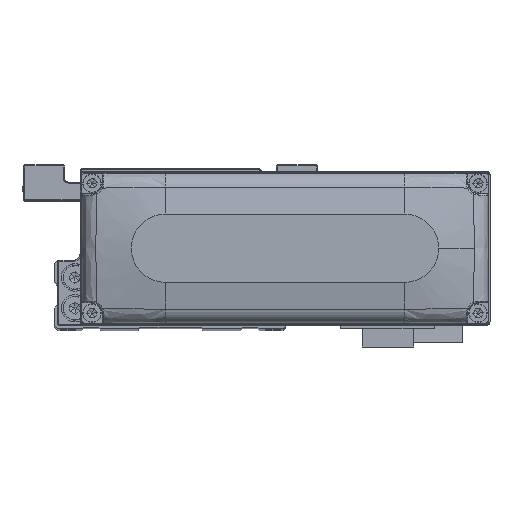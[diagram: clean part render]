
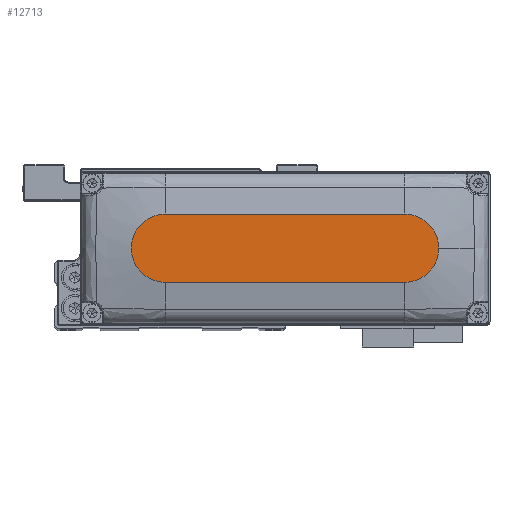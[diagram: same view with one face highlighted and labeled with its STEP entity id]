
A CAD part, top view. The second image highlights one B-rep face of the part: STEP entity #12713.
In plain terms, the highlighted planar face has unit normal (0, 0, 1).
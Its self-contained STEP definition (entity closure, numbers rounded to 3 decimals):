
#1715 = DIRECTION ( 'NONE',  ( 1., 0., 0. ) ) ;
#2168 = DIRECTION ( 'NONE',  ( 1., 0., 0. ) ) ;
#2771 = EDGE_CURVE ( 'NONE', #33817, #11611, #34825, .T. ) ;
#2887 = CARTESIAN_POINT ( 'NONE',  ( -35., 10., 28. ) ) ;
#2987 = ORIENTED_EDGE ( 'NONE', *, *, #30424, .T. ) ;
#3799 = AXIS2_PLACEMENT_3D ( 'NONE', #32739, #6324, #18088 ) ;
#3997 = CARTESIAN_POINT ( 'NONE',  ( 45., 0., 28. ) ) ;
#5388 = CARTESIAN_POINT ( 'NONE',  ( 35., -10., 28. ) ) ;
#6052 = DIRECTION ( 'NONE',  ( 1., 0., 0. ) ) ;
#6324 = DIRECTION ( 'NONE',  ( 0., 0., 1. ) ) ;
#9199 = FACE_OUTER_BOUND ( 'NONE', #35766, .T. ) ;
#9559 = ORIENTED_EDGE ( 'NONE', *, *, #2771, .T. ) ;
#10626 = CARTESIAN_POINT ( 'NONE',  ( 35., 0., 28. ) ) ;
#11611 = VERTEX_POINT ( 'NONE', #3997 ) ;
#12713 = ADVANCED_FACE ( 'NONE', ( #9199 ), #20981, .T. ) ;
#13333 = VERTEX_POINT ( 'NONE', #36120 ) ;
#13894 = EDGE_CURVE ( 'NONE', #13333, #15978, #31494, .T. ) ;
#14551 = CIRCLE ( 'NONE', #36122, 10. ) ;
#14654 = DIRECTION ( 'NONE',  ( -1., 0., 0. ) ) ;
#14866 = AXIS2_PLACEMENT_3D ( 'NONE', #16379, #28164, #1715 ) ;
#15001 = ORIENTED_EDGE ( 'NONE', *, *, #30095, .T. ) ;
#15978 = VERTEX_POINT ( 'NONE', #31484 ) ;
#16379 = CARTESIAN_POINT ( 'NONE',  ( -35., 0., 28. ) ) ;
#16833 = CARTESIAN_POINT ( 'NONE',  ( 35., 0., 28. ) ) ;
#17641 = ORIENTED_EDGE ( 'NONE', *, *, #17670, .T. ) ;
#17670 = EDGE_CURVE ( 'NONE', #21219, #13333, #29337, .T. ) ;
#18088 = DIRECTION ( 'NONE',  ( 1., 0., 0. ) ) ;
#18201 = AXIS2_PLACEMENT_3D ( 'NONE', #10626, #22411, #34158 ) ;
#20712 = LINE ( 'NONE', #32473, #25643 ) ;
#20981 = PLANE ( 'NONE',  #3799 ) ;
#21219 = VERTEX_POINT ( 'NONE', #24092 ) ;
#22411 = DIRECTION ( 'NONE',  ( 0., 0., 1. ) ) ;
#23653 = ORIENTED_EDGE ( 'NONE', *, *, #13894, .T. ) ;
#24092 = CARTESIAN_POINT ( 'NONE',  ( 35., 10., 28. ) ) ;
#25643 = VECTOR ( 'NONE', #6052, 1000. ) ;
#28164 = DIRECTION ( 'NONE',  ( 0., 0., 1. ) ) ;
#28614 = DIRECTION ( 'NONE',  ( 0., 0., 1. ) ) ;
#29337 = LINE ( 'NONE', #2887, #33086 ) ;
#30095 = EDGE_CURVE ( 'NONE', #15978, #33817, #20712, .T. ) ;
#30424 = EDGE_CURVE ( 'NONE', #11611, #21219, #14551, .T. ) ;
#31484 = CARTESIAN_POINT ( 'NONE',  ( -35., -10., 28. ) ) ;
#31494 = CIRCLE ( 'NONE', #14866, 10. ) ;
#32473 = CARTESIAN_POINT ( 'NONE',  ( -35., -10., 28. ) ) ;
#32739 = CARTESIAN_POINT ( 'NONE',  ( 0., 0., 28. ) ) ;
#33086 = VECTOR ( 'NONE', #14654, 1000. ) ;
#33817 = VERTEX_POINT ( 'NONE', #5388 ) ;
#34158 = DIRECTION ( 'NONE',  ( 1., 0., 0. ) ) ;
#34825 = CIRCLE ( 'NONE', #18201, 10. ) ;
#35766 = EDGE_LOOP ( 'NONE', ( #17641, #23653, #15001, #9559, #2987 ) ) ;
#36120 = CARTESIAN_POINT ( 'NONE',  ( -35., 10., 28. ) ) ;
#36122 = AXIS2_PLACEMENT_3D ( 'NONE', #16833, #28614, #2168 ) ;
